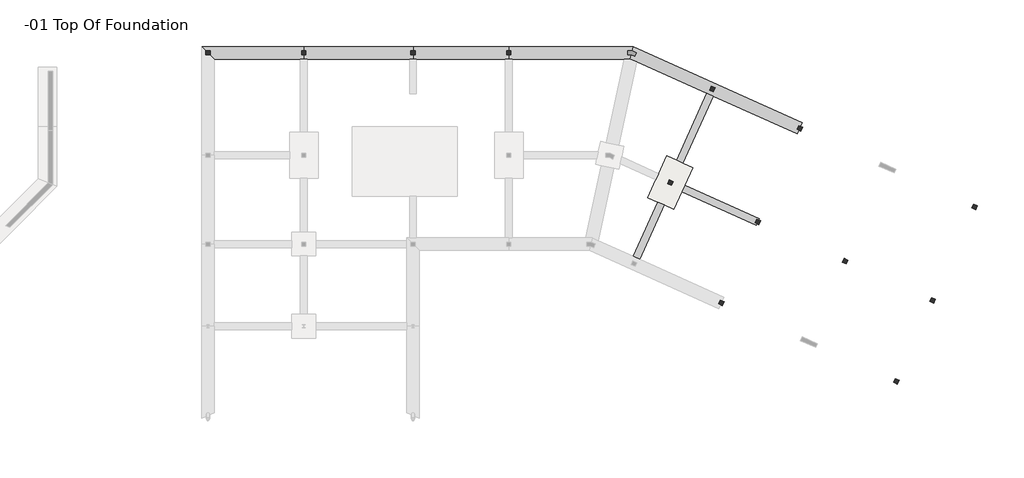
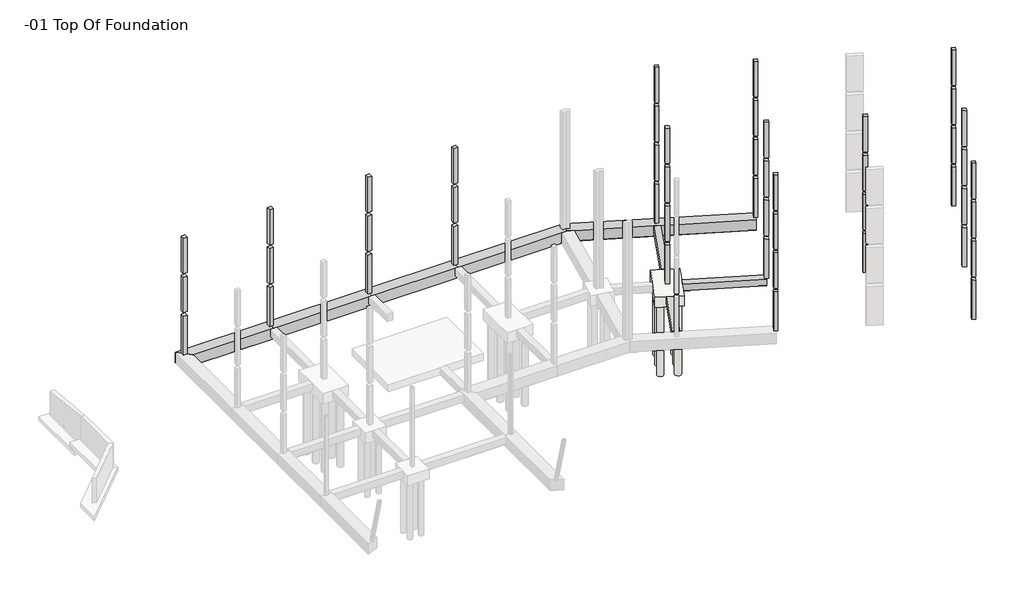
# One storey, part 4 of 4: 13 columns, 8 beams, 7 slabs.
"""IFC4 building model written with IfcOpenShell, lengths in millimetres."""

from ifc_helpers import new_model, si_unit, point, frame, frame_2d, origin, place, context, project, spatial, polyline, circle_curve, trimmed, segment, composite_curve, outline, extrude, faceted_brep, element, save

model = new_model("IFC4")

# Units and contexts
model_context = context("Model", 3, world=origin())
ifc_project = project(units=[si_unit("LENGTHUNIT", "METRE", prefix="MILLI")], contexts=[model_context])

# Site, building, storey
site = spatial("IfcSite", under=ifc_project)
building = spatial("IfcBuilding", under=site)
storey = spatial("IfcBuildingStorey", under=building, Name="-01 Top Of Foundation", Elevation=-304.8)

# Beams
placement = place(None, origin())
element("IfcBeam", 1, ObjectType="Ring Beam : 12 x 24", at=placement, inside=storey, context=model_context, shape_type="SweptSolid", body=[
    extrude(outline(polyline([(0.0, 787.4000001), (0.0, 1295.4), (584.2, 1295.4), (609.6, 1270.0), (609.6, 812.8000001), (584.2, 787.4000001), (0.0, 787.4000001)])), frame((35458.8390181, -8392.9653659, -304.8), z_axis=(0.40975609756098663, 0.9121951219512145, 0.0), x_axis=(0.0, 0.0, -1.0)), (0.0, 0.0, 1.0), 5372.1),
])
element("IfcBeam", 2, ObjectType="Ring Beam : 12 x 24", at=placement, inside=storey, context=model_context, shape_type="SweptSolid", body=[
    extrude(outline(polyline([(6743.7000001, 889.0), (7251.7, 889.0), (7251.7, 304.8), (7226.3, 279.4), (6769.1, 279.4), (6743.7000001, 304.8), (6743.7000001, 889.0)])), frame((37733.3780425, -17865.6165854, -1193.8), z_axis=(0.4097560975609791, 0.9121951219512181, 0.0), x_axis=(-0.9121951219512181, 0.4097560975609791, 0.0)), (0.0, 0.0, 1.0), 4356.1),
])
element("IfcBeam", 3, ObjectType="Ring Beam : 12 x 24", at=placement, inside=storey, context=model_context, shape_type="SweptSolid", body=[
    extrude(outline(polyline([(-7200.8999999, 1066.8), (-6692.9, 1066.8), (-6692.9, 482.6), (-6718.3, 457.2), (-7175.4999999, 457.2), (-7200.8999999, 482.6), (-7200.8999999, 1066.8)])), frame((37370.2819449, -18704.9317073, -1371.6), z_axis=(-0.9121951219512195, 0.40975609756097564, 0.0), x_axis=(-0.40975609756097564, -0.9121951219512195, 0.0)), (0.0, 0.0, 1.0), 5969.0),
])
element("IfcBeam", 4, ObjectType="Ring Beam : 16 x 32", at=placement, inside=storey, context=model_context, shape_type="Brep", body=[
    faceted_brep([(7010.4, -457.2, -304.8), (7010.4, 457.2, -304.8), (-457.2, 457.2, -304.8), (457.2, -457.2, -304.8), (6756.4, -457.2, -304.8), (7010.4, -457.2, -1193.8), (457.2, -457.2, -1193.8), (7010.4, -431.8, -1219.2), (431.8, -431.8, -1219.2), (7010.4, 431.8, -1219.2), (-431.8, 431.8, -1219.2), (7010.4, 457.2, -1193.8), (-457.2, 457.2, -1193.8)], [[[0, 1, 2, 3, 4]], [[5, 0, 4, 3, 6]], [[7, 5, 6, 8]], [[9, 7, 8, 10]], [[11, 9, 10, 12]], [[1, 11, 12, 2]], [[2, 12, 10, 8, 6, 3]], [[1, 0, 5, 7, 9, 11]]]),
])
element("IfcBeam", 5, ObjectType="Ring Beam : 16 x 32", at=placement, inside=storey, context=model_context, shape_type="Brep", body=[
    faceted_brep([(22009.1, -457.2, -304.8), (22009.1, 457.2, -304.8), (14998.7, 457.2, -304.8), (14998.7, -457.2, -304.8), (15252.7, -457.2, -304.8), (21755.1, -457.2, -304.8), (22009.1, -457.2, -1193.8), (14998.7, -457.2, -1193.8), (22009.1, -431.8, -1219.2), (14998.7, -431.8, -1219.2), (22009.1, 431.8, -1219.2), (14998.7, 431.8, -1219.2), (22009.1, 457.2, -1193.8), (14998.7, 457.2, -1193.8)], [[[0, 1, 2, 3, 4, 5]], [[6, 0, 5, 4, 3, 7]], [[8, 6, 7, 9]], [[10, 8, 9, 11]], [[12, 10, 11, 13]], [[1, 12, 13, 2]], [[2, 13, 11, 9, 7, 3]], [[1, 0, 6, 8, 10, 12]]]),
])
element("IfcBeam", 6, ObjectType="Ring Beam : 16 x 32", at=placement, inside=storey, context=model_context, shape_type="Brep", body=[
    faceted_brep([(31098.7387393, 457.2, -304.8), (31033.4244536, 152.4, -304.8), (30968.1131019, -152.386308, -304.8), (30902.7958822, -457.2, -304.8), (31345.5946226, -656.104247, -304.8), (36478.4321888, -2961.7639024, -304.8), (36941.8273107, -3169.92, -304.8), (43104.9824327, -5938.3960976, -304.8), (43375.5853595, -5335.982439, -304.8), (43479.6634083, -5104.284878, -304.8), (30902.7958822, -457.2, -1193.8), (31345.5946226, -656.104247, -1193.8), (43104.9824327, -5938.3960976, -1193.8), (30908.2387393, -431.8, -1219.2), (31327.3417353, -620.0601693, -1219.2), (43115.3902376, -5915.2263415, -1219.2), (31093.2958822, 431.8, -1219.2), (43469.2556034, -5127.4546341, -1219.2), (31098.7387393, 457.2, -1193.8), (43479.6634083, -5104.284878, -1193.8)], [[[0, 1, 2, 3, 4, 5, 6, 7, 8, 9]], [[3, 10, 11, 12, 7, 6, 5, 4]], [[10, 13, 14, 15, 12, 11]], [[13, 16, 17, 15, 14]], [[16, 18, 19, 17]], [[18, 0, 9, 19]], [[0, 18, 16, 13, 10, 3, 2, 1]], [[7, 12, 15, 17, 19, 9, 8]]]),
])
element("IfcBeam", 7, ObjectType="Ring Beam : 16 x 32", at=placement, inside=storey, context=model_context, shape_type="Brep", body=[
    faceted_brep([(14998.7, -457.2, -304.8), (14998.7, 457.2, -304.8), (7010.4, 457.2, -304.8), (7010.4, -457.2, -304.8), (7264.4, -457.2, -304.8), (14744.7, -457.2, -304.8), (14998.7, -457.2, -1193.8), (7010.4, -457.2, -1193.8), (14998.7, -431.8, -1219.2), (7010.4, -431.8, -1219.2), (14998.7, 431.8, -1219.2), (7010.4, 431.8, -1219.2), (14998.7, 457.2, -1193.8), (7010.4, 457.2, -1193.8)], [[[0, 1, 2, 3, 4, 5]], [[6, 0, 5, 4, 3, 7]], [[8, 6, 7, 9]], [[10, 8, 9, 11]], [[12, 10, 11, 13]], [[1, 12, 13, 2]], [[1, 0, 6, 8, 10, 12]], [[2, 13, 11, 9, 7, 3]]]),
])
element("IfcBeam", 8, ObjectType="Ring Beam : 16 x 32", at=placement, inside=storey, context=model_context, shape_type="Brep", body=[
    faceted_brep([(30902.7958822, -457.2, -304.8), (31098.7387393, 457.2, -304.8), (22009.1, 457.2, -304.8), (22009.1, -457.2, -304.8), (22263.1, -457.2, -304.8), (30453.0587055, -457.2, -304.8), (30902.7958822, -457.2, -1193.8), (22009.1, -457.2, -1193.8), (30453.0587055, -457.2, -1193.8), (30908.2387393, -431.8, -1219.2), (22009.1, -431.8, -1219.2), (30484.4781809, -431.8, -1219.2), (31093.2958822, 431.8, -1219.2), (22009.1, 431.8, -1219.2), (31098.7387393, 457.2, -1193.8), (22009.1, 457.2, -1193.8)], [[[0, 1, 2, 3, 4, 5]], [[6, 0, 5, 4, 3, 7, 8]], [[9, 6, 8, 7, 10, 11]], [[12, 9, 11, 10, 13]], [[14, 12, 13, 15]], [[1, 14, 15, 2]], [[1, 0, 6, 9, 12, 14]], [[2, 15, 13, 10, 7, 3]]]),
])

# Columns
element("IfcColumn", 9, ObjectType="Concrete-Rectangular-Column : 12 x 12", at=placement, inside=storey, context=model_context, shape_type="Brep", body=[
    faceted_brep([(152.4, 152.4, -304.8), (152.4, -152.4, -304.8), (-152.4, -152.4, -304.8), (-152.4, 152.4, -304.8), (152.4, -152.4, 3048.0), (152.4, 152.4, 3048.0), (-152.4, 152.4, 3048.0), (-152.4, -152.4, 3048.0), (152.4, 152.4, 0.0), (152.4, -152.4, 0.0), (-152.4, -152.4, 0.0), (-152.4, 152.4, 0.0)], [[[0, 1, 2, 3]], [[4, 5, 6, 7]], [[1, 0, 8, 5, 4, 9]], [[2, 1, 9, 4, 7, 10]], [[3, 2, 10, 7, 6, 11]], [[0, 3, 11, 6, 5, 8]]]),
    faceted_brep([(152.4, -152.4, 6705.6), (152.4, 152.4, 6705.6), (152.4, 152.4, 9753.6), (152.4, -152.4, 9753.6), (-152.4, -152.4, 6705.6), (-152.4, -152.4, 9753.6), (-152.4, 152.4, 6705.6), (-152.4, 152.4, 9753.6)], [[[0, 1, 2, 3]], [[4, 0, 3, 5]], [[6, 4, 5, 7]], [[1, 6, 7, 2]], [[1, 0, 4, 6]], [[3, 2, 7, 5]]]),
    faceted_brep([(152.4, -152.4, 6400.8), (152.4, 152.4, 6400.8), (-152.4, 152.4, 6400.8), (-152.4, -152.4, 6400.8), (152.4, -152.4, 3352.8), (152.4, 152.4, 3352.8), (-152.4, -152.4, 3352.8), (-152.4, 152.4, 3352.8)], [[[0, 1, 2, 3]], [[1, 0, 4, 5]], [[0, 3, 6, 4]], [[3, 2, 7, 6]], [[2, 1, 5, 7]], [[5, 4, 6, 7]]]),
])
element("IfcColumn", 10, ObjectType="Concrete-Rectangular-Column : 12 x 12", at=placement, inside=storey, context=model_context, shape_type="Brep", body=[
    faceted_brep([(7162.8, 152.4, -304.8), (7162.8, -152.4, -304.8), (6858.0, -152.4, -304.8), (6858.0, 152.4, -304.8), (7162.8, -152.4, 3048.0), (7162.8, 152.4, 3048.0), (6858.0, 152.4, 3048.0), (6858.0, -152.4, 3048.0), (7162.8, 152.4, 0.0), (7162.8, -152.4, 0.0), (6858.0, -152.4, 0.0), (6858.0, 152.4, 0.0)], [[[0, 1, 2, 3]], [[4, 5, 6, 7]], [[1, 0, 8, 5, 4, 9]], [[2, 1, 9, 4, 7, 10]], [[3, 2, 10, 7, 6, 11]], [[0, 3, 11, 6, 5, 8]]]),
    faceted_brep([(7162.8, -152.4, 6705.6), (7162.8, 152.4, 6705.6), (7162.8, 152.4, 9753.6), (7162.8, -152.4, 9753.6), (6858.0, -152.4, 6705.6), (6858.0, -152.4, 9753.6), (6858.0, 152.4, 6705.6), (6858.0, 152.4, 9753.6)], [[[0, 1, 2, 3]], [[4, 0, 3, 5]], [[6, 4, 5, 7]], [[1, 6, 7, 2]], [[1, 0, 4, 6]], [[3, 2, 7, 5]]]),
    faceted_brep([(7162.8, -152.4, 6400.8), (7162.8, 152.4, 6400.8), (6858.0, 152.4, 6400.8), (6858.0, -152.4, 6400.8), (7162.8, -152.4, 3352.8), (7162.8, 152.4, 3352.8), (6858.0, -152.4, 3352.8), (6858.0, 152.4, 3352.8)], [[[0, 1, 2, 3]], [[1, 0, 4, 5]], [[0, 3, 6, 4]], [[3, 2, 7, 6]], [[2, 1, 5, 7]], [[5, 4, 6, 7]]]),
])
element("IfcColumn", 11, ObjectType="Concrete-Rectangular-Column : 12 x 12", at=placement, inside=storey, context=model_context, shape_type="Brep", body=[
    faceted_brep([(15151.1, 152.4, -304.8), (15151.1, -152.4, -304.8), (14846.3, -152.4, -304.8), (14846.3, 152.4, -304.8), (15151.1, -152.4, 3048.0), (15151.1, 152.4, 3048.0), (14846.3, 152.4, 3048.0), (14846.3, -152.4, 3048.0), (15151.1, 152.4, 0.0), (15151.1, -152.4, 0.0), (14846.3, -152.4, 0.0), (14846.3, 152.4, 0.0)], [[[0, 1, 2, 3]], [[4, 5, 6, 7]], [[1, 0, 8, 5, 4, 9]], [[2, 1, 9, 4, 7, 10]], [[3, 2, 10, 7, 6, 11]], [[0, 3, 11, 6, 5, 8]]]),
    faceted_brep([(15151.1, -152.4, 6705.6), (15151.1, 152.4, 6705.6), (15151.1, 152.4, 9753.6), (15151.1, -152.4, 9753.6), (14846.3, -152.4, 6705.6), (14846.3, -152.4, 9753.6), (14846.3, 152.4, 6705.6), (14846.3, 152.4, 9753.6)], [[[0, 1, 2, 3]], [[4, 0, 3, 5]], [[6, 4, 5, 7]], [[1, 6, 7, 2]], [[1, 0, 4, 6]], [[3, 2, 7, 5]]]),
    faceted_brep([(15151.1, -152.4, 6400.8), (15151.1, 152.4, 6400.8), (14846.3, 152.4, 6400.8), (14846.3, -152.4, 6400.8), (15151.1, -152.4, 3352.8), (15151.1, 152.4, 3352.8), (14846.3, -152.4, 3352.8), (14846.3, 152.4, 3352.8)], [[[0, 1, 2, 3]], [[1, 0, 4, 5]], [[0, 3, 6, 4]], [[3, 2, 7, 6]], [[2, 1, 5, 7]], [[5, 4, 6, 7]]]),
])
element("IfcColumn", 12, ObjectType="Concrete-Rectangular-Column : 12 x 12", at=placement, inside=storey, context=model_context, shape_type="Brep", body=[
    faceted_brep([(22161.5, 152.4, -304.8), (22161.5, -152.4, -304.8), (21856.7, -152.4, -304.8), (21856.7, 152.4, -304.8), (22161.5, -152.4, 3048.0), (22161.5, 152.4, 3048.0), (21856.7, 152.4, 3048.0), (21856.7, -152.4, 3048.0), (22161.5, 152.4, 0.0), (22161.5, -152.4, 0.0), (21856.7, -152.4, 0.0), (21856.7, 152.4, 0.0)], [[[0, 1, 2, 3]], [[4, 5, 6, 7]], [[1, 0, 8, 5, 4, 9]], [[2, 1, 9, 4, 7, 10]], [[3, 2, 10, 7, 6, 11]], [[0, 3, 11, 6, 5, 8]]]),
    faceted_brep([(22161.5, -152.4, 6705.6), (22161.5, 152.4, 6705.6), (22161.5, 152.4, 9753.6), (22161.5, -152.4, 9753.6), (21856.7, -152.4, 6705.6), (21856.7, -152.4, 9753.6), (21856.7, 152.4, 6705.6), (21856.7, 152.4, 9753.6)], [[[0, 1, 2, 3]], [[4, 0, 3, 5]], [[6, 4, 5, 7]], [[1, 6, 7, 2]], [[1, 0, 4, 6]], [[3, 2, 7, 5]]]),
    faceted_brep([(22161.5, -152.4, 6400.8), (22161.5, 152.4, 6400.8), (21856.7, 152.4, 6400.8), (21856.7, -152.4, 6400.8), (22161.5, -152.4, 3352.8), (22161.5, 152.4, 3352.8), (21856.7, -152.4, 3352.8), (21856.7, 152.4, 3352.8)], [[[0, 1, 2, 3]], [[1, 0, 4, 5]], [[0, 3, 6, 4]], [[3, 2, 7, 6]], [[2, 1, 5, 7]], [[5, 4, 6, 7]]]),
])
element("IfcColumn", 13, ObjectType="Concrete-Rectangular-Column : 12 x 12", at=placement, inside=storey, context=model_context, shape_type="Brep", body=[
    faceted_brep([(36820.8985303, -2447.3209756, -304.8), (37098.9356034, -2572.2146341, -304.8), (36974.0419449, -2850.2517073, -304.8), (36696.0048717, -2725.3580488, -304.8), (37098.9356034, -2572.2146341, 3048.0), (36820.8985303, -2447.3209756, 3048.0), (36696.0048717, -2725.3580488, 3048.0), (36974.0419449, -2850.2517073, 3048.0), (36820.8985303, -2447.3209756, 0.0), (37098.9356034, -2572.2146341, 0.0), (36974.0419449, -2850.2517073, 0.0), (36696.0048717, -2725.3580488, 0.0)], [[[0, 1, 2, 3]], [[4, 5, 6, 7]], [[1, 0, 8, 5, 4, 9]], [[2, 1, 9, 4, 7, 10]], [[3, 2, 10, 7, 6, 11]], [[0, 3, 11, 6, 5, 8]]]),
    faceted_brep([(37098.9356034, -2572.2146341, 10058.4), (36820.8985303, -2447.3209756, 10058.4), (36820.8985303, -2447.3209756, 13106.4), (37098.9356034, -2572.2146341, 13106.4), (36974.0419449, -2850.2517073, 10058.4), (36974.0419449, -2850.2517073, 13106.4), (36696.0048717, -2725.3580488, 10058.4), (36696.0048717, -2725.3580488, 13106.4)], [[[0, 1, 2, 3]], [[4, 0, 3, 5]], [[6, 4, 5, 7]], [[1, 6, 7, 2]], [[1, 0, 4, 6]], [[3, 2, 7, 5]]]),
    faceted_brep([(36820.8985303, -2447.3209756, 3352.8), (37098.9356034, -2572.2146341, 3352.8), (36974.0419449, -2850.2517073, 3352.8), (36696.0048717, -2725.3580488, 3352.8), (37098.9356034, -2572.2146341, 6400.8), (36820.8985303, -2447.3209756, 6400.8), (36696.0048717, -2725.3580488, 6400.8), (36974.0419449, -2850.2517073, 6400.8)], [[[0, 1, 2, 3]], [[4, 5, 6, 7]], [[1, 0, 5, 4]], [[2, 1, 4, 7]], [[3, 2, 7, 6]], [[0, 3, 6, 5]]]),
    faceted_brep([(36820.8985303, -2447.3209756, 6705.6), (37098.9356034, -2572.2146341, 6705.6), (36974.0419449, -2850.2517073, 6705.6), (36696.0048717, -2725.3580488, 6705.6), (37098.9356034, -2572.2146341, 9753.6), (36820.8985303, -2447.3209756, 9753.6), (36696.0048717, -2725.3580488, 9753.6), (36974.0419449, -2850.2517073, 9753.6)], [[[0, 1, 2, 3]], [[4, 5, 6, 7]], [[1, 0, 5, 4]], [[2, 1, 4, 7]], [[3, 2, 7, 6]], [[0, 3, 6, 5]]]),
])
element("IfcColumn", 14, ObjectType="Concrete-Rectangular-Column : 12 x 12", at=placement, inside=storey, context=model_context, shape_type="Brep", body=[
    faceted_brep([(43215.7512132, -5319.875122, -304.8), (43493.7882864, -5444.7687805, -304.8), (43368.8946278, -5722.8058537, -304.8), (43090.8575546, -5597.9121951, -304.8), (43493.7882864, -5444.7687805, 3048.0), (43215.7512132, -5319.875122, 3048.0), (43090.8575546, -5597.9121951, 3048.0), (43368.8946278, -5722.8058537, 3048.0), (43215.7512132, -5319.875122, 0.0), (43493.7882864, -5444.7687805, 0.0), (43368.8946278, -5722.8058537, 0.0), (43090.8575546, -5597.9121951, 0.0)], [[[0, 1, 2, 3]], [[4, 5, 6, 7]], [[1, 0, 8, 5, 4, 9]], [[2, 1, 9, 4, 7, 10]], [[3, 2, 10, 7, 6, 11]], [[0, 3, 11, 6, 5, 8]]]),
    faceted_brep([(43493.7882864, -5444.7687805, 10058.4), (43215.7512132, -5319.875122, 10058.4), (43215.7512132, -5319.875122, 13106.4), (43493.7882864, -5444.7687805, 13106.4), (43368.8946278, -5722.8058537, 10058.4), (43368.8946278, -5722.8058537, 13106.4), (43090.8575546, -5597.9121951, 10058.4), (43090.8575546, -5597.9121951, 13106.4)], [[[0, 1, 2, 3]], [[4, 0, 3, 5]], [[6, 4, 5, 7]], [[1, 6, 7, 2]], [[1, 0, 4, 6]], [[3, 2, 7, 5]]]),
    faceted_brep([(43215.7512132, -5319.875122, 3352.8), (43493.7882864, -5444.7687805, 3352.8), (43368.8946278, -5722.8058537, 3352.8), (43090.8575546, -5597.9121951, 3352.8), (43493.7882864, -5444.7687805, 6400.8), (43215.7512132, -5319.875122, 6400.8), (43090.8575546, -5597.9121951, 6400.8), (43368.8946278, -5722.8058537, 6400.8)], [[[0, 1, 2, 3]], [[4, 5, 6, 7]], [[1, 0, 5, 4]], [[2, 1, 4, 7]], [[3, 2, 7, 6]], [[0, 3, 6, 5]]]),
    faceted_brep([(43215.7512132, -5319.875122, 6705.6), (43493.7882864, -5444.7687805, 6705.6), (43368.8946278, -5722.8058537, 6705.6), (43090.8575546, -5597.9121951, 6705.6), (43493.7882864, -5444.7687805, 9753.6), (43215.7512132, -5319.875122, 9753.6), (43090.8575546, -5597.9121951, 9753.6), (43368.8946278, -5722.8058537, 9753.6)], [[[0, 1, 2, 3]], [[4, 5, 6, 7]], [[1, 0, 5, 4]], [[2, 1, 4, 7]], [[3, 2, 7, 6]], [[0, 3, 6, 5]]]),
])
element("IfcColumn", 15, ObjectType="Concrete-Rectangular-Column : 12 x 12", at=placement, inside=storey, context=model_context, shape_type="Brep", body=[
    faceted_brep([(56005.456579, -11064.9834146, -304.8), (56283.4936522, -11189.8770732, -304.8), (56158.5999937, -11467.9141463, -304.8), (55880.5629205, -11343.0204878, -304.8), (56283.4936522, -11189.8770732, 3048.0), (56005.456579, -11064.9834146, 3048.0), (55880.5629205, -11343.0204878, 3048.0), (56158.5999937, -11467.9141463, 3048.0), (56005.456579, -11064.9834146, 0.0), (56283.4936522, -11189.8770732, 0.0), (56158.5999937, -11467.9141463, 0.0), (55880.5629205, -11343.0204878, 0.0)], [[[0, 1, 2, 3]], [[4, 5, 6, 7]], [[1, 0, 8, 5, 4, 9]], [[2, 1, 9, 4, 7, 10]], [[3, 2, 10, 7, 6, 11]], [[0, 3, 11, 6, 5, 8]]]),
    faceted_brep([(56283.4936522, -11189.8770732, 10058.4), (56005.456579, -11064.9834146, 10058.4), (56005.456579, -11064.9834146, 13106.4), (56283.4936522, -11189.8770732, 13106.4), (56158.5999937, -11467.9141463, 10058.4), (56158.5999937, -11467.9141463, 13106.4), (55880.5629205, -11343.0204878, 10058.4), (55880.5629205, -11343.0204878, 13106.4)], [[[0, 1, 2, 3]], [[4, 0, 3, 5]], [[6, 4, 5, 7]], [[1, 6, 7, 2]], [[1, 0, 4, 6]], [[3, 2, 7, 5]]]),
    faceted_brep([(56005.456579, -11064.9834146, 3352.8), (56283.4936522, -11189.8770732, 3352.8), (56158.5999937, -11467.9141463, 3352.8), (55880.5629205, -11343.0204878, 3352.8), (56283.4936522, -11189.8770732, 6400.8), (56005.456579, -11064.9834146, 6400.8), (55880.5629205, -11343.0204878, 6400.8), (56158.5999937, -11467.9141463, 6400.8)], [[[0, 1, 2, 3]], [[4, 5, 6, 7]], [[1, 0, 5, 4]], [[2, 1, 4, 7]], [[3, 2, 7, 6]], [[0, 3, 6, 5]]]),
    faceted_brep([(56005.456579, -11064.9834146, 6705.6), (56283.4936522, -11189.8770732, 6705.6), (56158.5999937, -11467.9141463, 6705.6), (55880.5629205, -11343.0204878, 6705.6), (56283.4936522, -11189.8770732, 9753.6), (56005.456579, -11064.9834146, 9753.6), (55880.5629205, -11343.0204878, 9753.6), (56158.5999937, -11467.9141463, 9753.6)], [[[0, 1, 2, 3]], [[4, 5, 6, 7]], [[1, 0, 5, 4]], [[2, 1, 4, 7]], [[3, 2, 7, 6]], [[0, 3, 6, 5]]]),
])
element("IfcColumn", 16, ObjectType="Concrete-Rectangular-Column : 12 x 12", at=placement, inside=storey, context=model_context, shape_type="Brep", body=[
    faceted_brep([(52929.9502376, -17911.6463415, -304.8), (53207.9873107, -18036.54, -304.8), (53083.0936522, -18314.5770732, -304.8), (52805.056579, -18189.6834146, -304.8), (53207.9873107, -18036.54, 3048.0), (52929.9502376, -17911.6463415, 3048.0), (52805.056579, -18189.6834146, 3048.0), (53083.0936522, -18314.5770732, 3048.0), (52929.9502376, -17911.6463415, 0.0), (53207.9873107, -18036.54, 0.0), (53083.0936522, -18314.5770732, 0.0), (52805.056579, -18189.6834146, 0.0)], [[[0, 1, 2, 3]], [[4, 5, 6, 7]], [[1, 0, 8, 5, 4, 9]], [[2, 1, 9, 4, 7, 10]], [[3, 2, 10, 7, 6, 11]], [[0, 3, 11, 6, 5, 8]]]),
    faceted_brep([(53207.9873107, -18036.54, 10058.4), (52929.9502376, -17911.6463415, 10058.4), (52929.9502376, -17911.6463415, 13106.4), (53207.9873107, -18036.54, 13106.4), (53083.0936522, -18314.5770732, 10058.4), (53083.0936522, -18314.5770732, 13106.4), (52805.056579, -18189.6834146, 10058.4), (52805.056579, -18189.6834146, 13106.4)], [[[0, 1, 2, 3]], [[4, 0, 3, 5]], [[6, 4, 5, 7]], [[1, 6, 7, 2]], [[1, 0, 4, 6]], [[3, 2, 7, 5]]]),
    faceted_brep([(52929.9502376, -17911.6463415, 3352.8), (53207.9873107, -18036.54, 3352.8), (53083.0936522, -18314.5770732, 3352.8), (52805.056579, -18189.6834146, 3352.8), (53207.9873107, -18036.54, 6400.8), (52929.9502376, -17911.6463415, 6400.8), (52805.056579, -18189.6834146, 6400.8), (53083.0936522, -18314.5770732, 6400.8)], [[[0, 1, 2, 3]], [[4, 5, 6, 7]], [[1, 0, 5, 4]], [[2, 1, 4, 7]], [[3, 2, 7, 6]], [[0, 3, 6, 5]]]),
    faceted_brep([(52929.9502376, -17911.6463415, 6705.6), (53207.9873107, -18036.54, 6705.6), (53083.0936522, -18314.5770732, 6705.6), (52805.056579, -18189.6834146, 6705.6), (53207.9873107, -18036.54, 9753.6), (52929.9502376, -17911.6463415, 9753.6), (52805.056579, -18189.6834146, 9753.6), (53083.0936522, -18314.5770732, 9753.6)], [[[0, 1, 2, 3]], [[4, 5, 6, 7]], [[1, 0, 5, 4]], [[2, 1, 4, 7]], [[3, 2, 7, 6]], [[0, 3, 6, 5]]]),
])
element("IfcColumn", 17, ObjectType="Concrete-Rectangular-Column : 12 x 12", at=placement, inside=storey, context=model_context, shape_type="Brep", body=[
    faceted_brep([(50270.7560912, -23831.5190244, -304.8), (50548.7931644, -23956.4126829, -304.8), (50423.8995059, -24234.4497561, -304.8), (50145.8624327, -24109.5560976, -304.8), (50548.7931644, -23956.4126829, 3048.0), (50270.7560912, -23831.5190244, 3048.0), (50145.8624327, -24109.5560976, 3048.0), (50423.8995059, -24234.4497561, 3048.0), (50270.7560912, -23831.5190244, 0.0), (50548.7931644, -23956.4126829, 0.0), (50423.8995059, -24234.4497561, 0.0), (50145.8624327, -24109.5560976, 0.0)], [[[0, 1, 2, 3]], [[4, 5, 6, 7]], [[1, 0, 8, 5, 4, 9]], [[2, 1, 9, 4, 7, 10]], [[3, 2, 10, 7, 6, 11]], [[0, 3, 11, 6, 5, 8]]]),
    faceted_brep([(50548.7931644, -23956.4126829, 10058.4), (50270.7560912, -23831.5190244, 10058.4), (50270.7560912, -23831.5190244, 13106.4), (50548.7931644, -23956.4126829, 13106.4), (50423.8995059, -24234.4497561, 10058.4), (50423.8995059, -24234.4497561, 13106.4), (50145.8624327, -24109.5560976, 10058.4), (50145.8624327, -24109.5560976, 13106.4)], [[[0, 1, 2, 3]], [[4, 0, 3, 5]], [[6, 4, 5, 7]], [[1, 6, 7, 2]], [[1, 0, 4, 6]], [[3, 2, 7, 5]]]),
    faceted_brep([(50270.7560912, -23831.5190244, 3352.8), (50548.7931644, -23956.4126829, 3352.8), (50423.8995059, -24234.4497561, 3352.8), (50145.8624327, -24109.5560976, 3352.8), (50548.7931644, -23956.4126829, 6400.8), (50270.7560912, -23831.5190244, 6400.8), (50145.8624327, -24109.5560976, 6400.8), (50423.8995059, -24234.4497561, 6400.8)], [[[0, 1, 2, 3]], [[4, 5, 6, 7]], [[1, 0, 5, 4]], [[2, 1, 4, 7]], [[3, 2, 7, 6]], [[0, 3, 6, 5]]]),
    faceted_brep([(50270.7560912, -23831.5190244, 6705.6), (50548.7931644, -23956.4126829, 6705.6), (50423.8995059, -24234.4497561, 6705.6), (50145.8624327, -24109.5560976, 6705.6), (50548.7931644, -23956.4126829, 9753.6), (50270.7560912, -23831.5190244, 9753.6), (50145.8624327, -24109.5560976, 9753.6), (50423.8995059, -24234.4497561, 9753.6)], [[[0, 1, 2, 3]], [[4, 5, 6, 7]], [[1, 0, 5, 4]], [[2, 1, 4, 7]], [[3, 2, 7, 6]], [[0, 3, 6, 5]]]),
])
element("IfcColumn", 18, ObjectType="Concrete-Rectangular-Column : 12 x 12", at=placement, inside=storey, context=model_context, shape_type="Brep", body=[
    faceted_brep([(37481.0507254, -18086.4107317, -304.8), (37759.0877985, -18211.3043902, -304.8), (37634.19414, -18489.3414634, -304.8), (37356.1570668, -18364.4478049, -304.8), (37759.0877985, -18211.3043902, 3048.0), (37481.0507254, -18086.4107317, 3048.0), (37356.1570668, -18364.4478049, 3048.0), (37634.19414, -18489.3414634, 3048.0), (37481.0507254, -18086.4107317, 0.0), (37759.0877985, -18211.3043902, 0.0), (37634.19414, -18489.3414634, 0.0), (37356.1570668, -18364.4478049, 0.0)], [[[0, 1, 2, 3]], [[4, 5, 6, 7]], [[1, 0, 8, 5, 4, 9]], [[2, 1, 9, 4, 7, 10]], [[3, 2, 10, 7, 6, 11]], [[0, 3, 11, 6, 5, 8]]]),
    faceted_brep([(37759.0877985, -18211.3043902, 10058.4), (37481.0507254, -18086.4107317, 10058.4), (37481.0507254, -18086.4107317, 13106.4), (37759.0877985, -18211.3043902, 13106.4), (37634.19414, -18489.3414634, 10058.4), (37634.19414, -18489.3414634, 13106.4), (37356.1570668, -18364.4478049, 10058.4), (37356.1570668, -18364.4478049, 13106.4)], [[[0, 1, 2, 3]], [[4, 0, 3, 5]], [[6, 4, 5, 7]], [[1, 6, 7, 2]], [[1, 0, 4, 6]], [[3, 2, 7, 5]]]),
    faceted_brep([(37481.0507254, -18086.4107317, 3352.8), (37759.0877985, -18211.3043902, 3352.8), (37634.19414, -18489.3414634, 3352.8), (37356.1570668, -18364.4478049, 3352.8), (37759.0877985, -18211.3043902, 6400.8), (37481.0507254, -18086.4107317, 6400.8), (37356.1570668, -18364.4478049, 6400.8), (37634.19414, -18489.3414634, 6400.8)], [[[0, 1, 2, 3]], [[4, 5, 6, 7]], [[1, 0, 5, 4]], [[2, 1, 4, 7]], [[3, 2, 7, 6]], [[0, 3, 6, 5]]]),
    faceted_brep([(37481.0507254, -18086.4107317, 6705.6), (37759.0877985, -18211.3043902, 6705.6), (37634.19414, -18489.3414634, 6705.6), (37356.1570668, -18364.4478049, 6705.6), (37759.0877985, -18211.3043902, 9753.6), (37481.0507254, -18086.4107317, 9753.6), (37356.1570668, -18364.4478049, 9753.6), (37634.19414, -18489.3414634, 9753.6)], [[[0, 1, 2, 3]], [[4, 5, 6, 7]], [[1, 0, 5, 4]], [[2, 1, 4, 7]], [[3, 2, 7, 6]], [[0, 3, 6, 5]]]),
])
element("IfcColumn", 19, ObjectType="Concrete-Rectangular-Column : 12 x 12", at=placement, inside=storey, context=model_context, shape_type="Brep", body=[
    faceted_brep([(33745.3921888, -9293.9839024, -304.8), (34023.429262, -9418.877561, -304.8), (33898.5356034, -9696.9146341, -304.8), (33620.4985303, -9572.0209756, -304.8), (34023.429262, -9418.877561, 3048.0), (33745.3921888, -9293.9839024, 3048.0), (33620.4985303, -9572.0209756, 3048.0), (33898.5356034, -9696.9146341, 3048.0), (33745.3921888, -9293.9839024, 0.0), (34023.429262, -9418.877561, 0.0), (33898.5356034, -9696.9146341, 0.0), (33620.4985303, -9572.0209756, 0.0)], [[[0, 1, 2, 3]], [[4, 5, 6, 7]], [[1, 0, 8, 5, 4, 9]], [[2, 1, 9, 4, 7, 10]], [[3, 2, 10, 7, 6, 11]], [[0, 3, 11, 6, 5, 8]]]),
    faceted_brep([(34023.429262, -9418.877561, 10058.4), (33745.3921888, -9293.9839024, 10058.4), (33745.3921888, -9293.9839024, 13106.4), (34023.429262, -9418.877561, 13106.4), (33898.5356034, -9696.9146341, 10058.4), (33898.5356034, -9696.9146341, 13106.4), (33620.4985303, -9572.0209756, 10058.4), (33620.4985303, -9572.0209756, 13106.4)], [[[0, 1, 2, 3]], [[4, 0, 3, 5]], [[6, 4, 5, 7]], [[1, 6, 7, 2]], [[1, 0, 4, 6]], [[3, 2, 7, 5]]]),
    faceted_brep([(33745.3921888, -9293.9839024, 3352.8), (34023.429262, -9418.877561, 3352.8), (33898.5356034, -9696.9146341, 3352.8), (33620.4985303, -9572.0209756, 3352.8), (34023.429262, -9418.877561, 6400.8), (33745.3921888, -9293.9839024, 6400.8), (33620.4985303, -9572.0209756, 6400.8), (33898.5356034, -9696.9146341, 6400.8)], [[[0, 1, 2, 3]], [[4, 5, 6, 7]], [[1, 0, 5, 4]], [[2, 1, 4, 7]], [[3, 2, 7, 6]], [[0, 3, 6, 5]]]),
    faceted_brep([(33745.3921888, -9293.9839024, 6705.6), (34023.429262, -9418.877561, 6705.6), (33898.5356034, -9696.9146341, 6705.6), (33620.4985303, -9572.0209756, 6705.6), (34023.429262, -9418.877561, 9753.6), (33745.3921888, -9293.9839024, 9753.6), (33620.4985303, -9572.0209756, 9753.6), (33898.5356034, -9696.9146341, 9753.6)], [[[0, 1, 2, 3]], [[4, 5, 6, 7]], [[1, 0, 5, 4]], [[2, 1, 4, 7]], [[3, 2, 7, 6]], [[0, 3, 6, 5]]]),
])
element("IfcColumn", 20, ObjectType="Concrete-Rectangular-Column : 12 x 12", at=placement, inside=storey, context=model_context, shape_type="Brep", body=[
    faceted_brep([(40140.2448717, -12166.5380488, -304.8), (40418.2819449, -12291.4317073, -304.8), (40293.3882864, -12569.4687805, -304.8), (40015.3512132, -12444.575122, -304.8), (40418.2819449, -12291.4317073, 3048.0), (40140.2448717, -12166.5380488, 3048.0), (40015.3512132, -12444.575122, 3048.0), (40293.3882864, -12569.4687805, 3048.0), (40140.2448717, -12166.5380488, 0.0), (40418.2819449, -12291.4317073, 0.0), (40293.3882864, -12569.4687805, 0.0), (40015.3512132, -12444.575122, 0.0)], [[[0, 1, 2, 3]], [[4, 5, 6, 7]], [[1, 0, 8, 5, 4, 9]], [[2, 1, 9, 4, 7, 10]], [[3, 2, 10, 7, 6, 11]], [[0, 3, 11, 6, 5, 8]]]),
    faceted_brep([(40418.2819449, -12291.4317073, 10058.4), (40140.2448717, -12166.5380488, 10058.4), (40140.2448717, -12166.5380488, 13106.4), (40418.2819449, -12291.4317073, 13106.4), (40293.3882864, -12569.4687805, 10058.4), (40293.3882864, -12569.4687805, 13106.4), (40015.3512132, -12444.575122, 10058.4), (40015.3512132, -12444.575122, 13106.4)], [[[0, 1, 2, 3]], [[4, 0, 3, 5]], [[6, 4, 5, 7]], [[1, 6, 7, 2]], [[1, 0, 4, 6]], [[3, 2, 7, 5]]]),
    faceted_brep([(40140.2448717, -12166.5380488, 3352.8), (40418.2819449, -12291.4317073, 3352.8), (40293.3882864, -12569.4687805, 3352.8), (40015.3512132, -12444.575122, 3352.8), (40418.2819449, -12291.4317073, 6400.8), (40140.2448717, -12166.5380488, 6400.8), (40015.3512132, -12444.575122, 6400.8), (40293.3882864, -12569.4687805, 6400.8)], [[[0, 1, 2, 3]], [[4, 5, 6, 7]], [[1, 0, 5, 4]], [[2, 1, 4, 7]], [[3, 2, 7, 6]], [[0, 3, 6, 5]]]),
    faceted_brep([(40140.2448717, -12166.5380488, 6705.6), (40418.2819449, -12291.4317073, 6705.6), (40293.3882864, -12569.4687805, 6705.6), (40015.3512132, -12444.575122, 6705.6), (40418.2819449, -12291.4317073, 9753.6), (40140.2448717, -12166.5380488, 9753.6), (40015.3512132, -12444.575122, 9753.6), (40293.3882864, -12569.4687805, 9753.6)], [[[0, 1, 2, 3]], [[4, 5, 6, 7]], [[1, 0, 5, 4]], [[2, 1, 4, 7]], [[3, 2, 7, 6]], [[0, 3, 6, 5]]]),
])
element("IfcColumn", 21, ObjectType="Concrete-Rectangular-Column : 12 x 12", at=placement, inside=storey, context=model_context, shape_type="Brep", body=[
    faceted_brep([(46535.0975546, -15039.0921951, -304.8), (46813.1346278, -15163.9858537, -304.8), (46688.2409693, -15442.0229268, -304.8), (46410.2038961, -15317.1292683, -304.8), (46813.1346278, -15163.9858537, 3048.0), (46535.0975546, -15039.0921951, 3048.0), (46410.2038961, -15317.1292683, 3048.0), (46688.2409693, -15442.0229268, 3048.0), (46535.0975546, -15039.0921951, 0.0), (46813.1346278, -15163.9858537, 0.0), (46688.2409693, -15442.0229268, 0.0), (46410.2038961, -15317.1292683, 0.0)], [[[0, 1, 2, 3]], [[4, 5, 6, 7]], [[1, 0, 8, 5, 4, 9]], [[2, 1, 9, 4, 7, 10]], [[3, 2, 10, 7, 6, 11]], [[0, 3, 11, 6, 5, 8]]]),
    faceted_brep([(46813.1346278, -15163.9858537, 10058.4), (46535.0975546, -15039.0921951, 10058.4), (46535.0975546, -15039.0921951, 13106.4), (46813.1346278, -15163.9858537, 13106.4), (46688.2409693, -15442.0229268, 10058.4), (46688.2409693, -15442.0229268, 13106.4), (46410.2038961, -15317.1292683, 10058.4), (46410.2038961, -15317.1292683, 13106.4)], [[[0, 1, 2, 3]], [[4, 0, 3, 5]], [[6, 4, 5, 7]], [[1, 6, 7, 2]], [[1, 0, 4, 6]], [[3, 2, 7, 5]]]),
    faceted_brep([(46535.0975546, -15039.0921951, 3352.8), (46813.1346278, -15163.9858537, 3352.8), (46688.2409693, -15442.0229268, 3352.8), (46410.2038961, -15317.1292683, 3352.8), (46813.1346278, -15163.9858537, 6400.8), (46535.0975546, -15039.0921951, 6400.8), (46410.2038961, -15317.1292683, 6400.8), (46688.2409693, -15442.0229268, 6400.8)], [[[0, 1, 2, 3]], [[4, 5, 6, 7]], [[1, 0, 5, 4]], [[2, 1, 4, 7]], [[3, 2, 7, 6]], [[0, 3, 6, 5]]]),
    faceted_brep([(46535.0975546, -15039.0921951, 6705.6), (46813.1346278, -15163.9858537, 6705.6), (46688.2409693, -15442.0229268, 6705.6), (46410.2038961, -15317.1292683, 6705.6), (46813.1346278, -15163.9858537, 9753.6), (46535.0975546, -15039.0921951, 9753.6), (46410.2038961, -15317.1292683, 9753.6), (46688.2409693, -15442.0229268, 9753.6)], [[[0, 1, 2, 3]], [[4, 5, 6, 7]], [[1, 0, 5, 4]], [[2, 1, 4, 7]], [[3, 2, 7, 6]], [[0, 3, 6, 5]]]),
])

# Slabs
element("IfcSlab", 22, ObjectType="Pile Cap-6 Pile : 132\"x82\"x35\"", at=placement, inside=storey, context=model_context, shape_type="Brep", body=[
    faceted_brep([(35458.8390181, -8392.9653659, -304.8), (34740.576579, -8070.3234146, -304.8), (34277.1814571, -7862.1673171, -304.8), (33558.9190181, -7539.5253659, -304.8), (32979.0776096, -8830.3627872, -304.8), (32770.921512, -9293.7579091, -304.8), (32185.0887742, -10597.9331707, -304.8), (32903.3512132, -10920.575122, -304.8), (33366.7463351, -11128.7312195, -304.8), (34085.0087742, -11451.3731707, -304.8), (34667.8458473, -10153.8668293, -304.8), (34876.0019449, -9690.4717073, -304.8), (35458.8390181, -8392.9653659, -1193.8), (34085.0087742, -11451.3731707, -1193.8), (32185.0887742, -10597.9331707, -1193.8), (33558.9190181, -7539.5253659, -1193.8)], [[[0, 1, 2, 3, 4, 5, 6, 7, 8, 9, 10, 11]], [[12, 13, 14, 15]], [[3, 2, 1, 0, 12, 15]], [[6, 5, 4, 3, 15, 14]], [[9, 8, 7, 6, 14, 13]], [[0, 11, 10, 9, 13, 12]]]),
])
element("IfcSlab", 23, ObjectType="Round In Situ Concrete Pile : 20\" Diameter", at=placement, inside=storey, context=model_context, shape_type="SweptSolid", body=[
    extrude(outline(composite_curve([segment(trimmed(circle_curve(frame_2d((33763.1102376, -8076.7663415)), 254.0), [point((33531.4126766, -7972.6882927))], [point((33994.8077985, -8180.8443902))], False, "CARTESIAN"), True, "CONTINUOUS"), segment(trimmed(circle_curve(frame_2d((33763.1102376, -8076.7663415)), 254.0), [point((33994.8077985, -8180.8443902))], [point((33531.4126766, -7972.6882927))], False, "CARTESIAN"), True, "CONTINUOUS")], self_intersect=False)), frame((0.0, 0.0, -7289.8), z_axis=(0.0, 0.0, 1.0), x_axis=(1.0, 0.0, 0.0)), (0.0, 0.0, 1.0), 6096.0),
])
element("IfcSlab", 24, ObjectType="Round In Situ Concrete Pile : 20\" Diameter", at=placement, inside=storey, context=model_context, shape_type="SweptSolid", body=[
    extrude(outline(composite_curve([segment(trimmed(circle_curve(frame_2d((32722.3297498, -10393.7419512)), 254.0), [point((32490.6321888, -10289.6639024))], [point((32954.0273107, -10497.82))], False, "CARTESIAN"), True, "CONTINUOUS"), segment(trimmed(circle_curve(frame_2d((32722.3297498, -10393.7419512)), 254.0), [point((32954.0273107, -10497.82))], [point((32490.6321888, -10289.6639024))], False, "CARTESIAN"), True, "CONTINUOUS")], self_intersect=False)), frame((0.0, 0.0, -7289.8), z_axis=(0.0, 0.0, 1.0), x_axis=(1.0, 0.0, 0.0)), (0.0, 0.0, 1.0), 6096.0),
])
element("IfcSlab", 25, ObjectType="Round In Situ Concrete Pile : 20\" Diameter", at=placement, inside=storey, context=model_context, shape_type="SweptSolid", body=[
    extrude(outline(composite_curve([segment(trimmed(circle_curve(frame_2d((33880.8175546, -10914.1321951)), 254.0), [point((33649.1199937, -10810.0541463))], [point((34112.5151156, -11018.2102439))], False, "CARTESIAN"), True, "CONTINUOUS"), segment(trimmed(circle_curve(frame_2d((33880.8175546, -10914.1321951)), 254.0), [point((34112.5151156, -11018.2102439))], [point((33649.1199937, -10810.0541463))], False, "CARTESIAN"), True, "CONTINUOUS")], self_intersect=False)), frame((0.0, 0.0, -7289.8), z_axis=(0.0, 0.0, 1.0), x_axis=(1.0, 0.0, 0.0)), (0.0, 0.0, 1.0), 6096.0),
])
element("IfcSlab", 26, ObjectType="Round In Situ Concrete Pile : 20\" Diameter", at=placement, inside=storey, context=model_context, shape_type="SweptSolid", body=[
    extrude(outline(composite_curve([segment(trimmed(circle_curve(frame_2d((34921.5980425, -8597.1565854)), 254.0), [point((34689.9004815, -8493.0785366))], [point((35153.2956034, -8701.2346341))], False, "CARTESIAN"), True, "CONTINUOUS"), segment(trimmed(circle_curve(frame_2d((34921.5980425, -8597.1565854)), 254.0), [point((35153.2956034, -8701.2346341))], [point((34689.9004815, -8493.0785366))], False, "CARTESIAN"), True, "CONTINUOUS")], self_intersect=False)), frame((0.0, 0.0, -7289.8), z_axis=(0.0, 0.0, 1.0), x_axis=(1.0, 0.0, 0.0)), (0.0, 0.0, 1.0), 6096.0),
])
element("IfcSlab", 27, ObjectType="Round In Situ Concrete Pile : 20\" Diameter", at=placement, inside=storey, context=model_context, shape_type="SweptSolid", body=[
    extrude(outline(composite_curve([segment(trimmed(circle_curve(frame_2d((33242.7199937, -9235.2541463)), 254.0), [point((33011.0224327, -9131.1760976))], [point((33474.4175546, -9339.3321951))], False, "CARTESIAN"), True, "CONTINUOUS"), segment(trimmed(circle_curve(frame_2d((33242.7199937, -9235.2541463)), 254.0), [point((33474.4175546, -9339.3321951))], [point((33011.0224327, -9131.1760976))], False, "CARTESIAN"), True, "CONTINUOUS")], self_intersect=False)), frame((0.0, 0.0, -7289.8), z_axis=(0.0, 0.0, 1.0), x_axis=(1.0, 0.0, 0.0)), (0.0, 0.0, 1.0), 6096.0),
])
element("IfcSlab", 28, ObjectType="Round In Situ Concrete Pile : 20\" Diameter", at=placement, inside=storey, context=model_context, shape_type="SweptSolid", body=[
    extrude(outline(composite_curve([segment(trimmed(circle_curve(frame_2d((34401.2077985, -9755.6443902)), 254.0), [point((34169.5102376, -9651.5663415))], [point((34632.9053595, -9859.722439))], False, "CARTESIAN"), True, "CONTINUOUS"), segment(trimmed(circle_curve(frame_2d((34401.2077985, -9755.6443902)), 254.0), [point((34632.9053595, -9859.722439))], [point((34169.5102376, -9651.5663415))], False, "CARTESIAN"), True, "CONTINUOUS")], self_intersect=False)), frame((0.0, 0.0, -7289.8), z_axis=(0.0, 0.0, 1.0), x_axis=(1.0, 0.0, 0.0)), (0.0, 0.0, 1.0), 6096.0),
])

save(model, "model.ifc")
